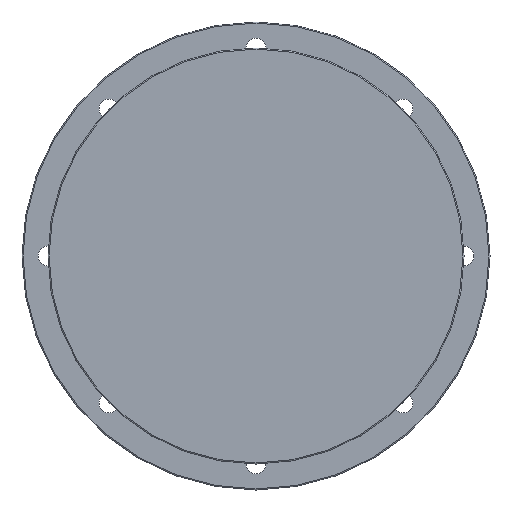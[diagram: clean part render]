
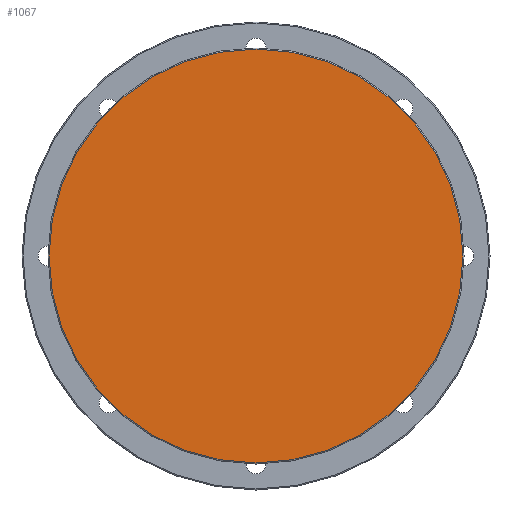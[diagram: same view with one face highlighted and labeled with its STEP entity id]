
A CAD part, left-side view. The second image highlights one B-rep face of the part: STEP entity #1067.
In plain terms, the highlighted planar face has unit normal (-1, 0, 0).
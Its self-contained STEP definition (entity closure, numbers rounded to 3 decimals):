
#1044=CARTESIAN_POINT('',(0.0,199.0,0.0));
#1045=VERTEX_POINT('',#1044);
#1046=CARTESIAN_POINT('',(0.0,0.0,0.0));
#1047=DIRECTION('',(1.0,0.0,0.0));
#1048=DIRECTION('',(0.0,-1.0,0.0));
#1049=AXIS2_PLACEMENT_3D('',#1046,#1047,#1048);
#1050=CIRCLE('',#1049,199.0);
#1051=EDGE_CURVE('',#1045,#1045,#1050,.T.);
#1059=CARTESIAN_POINT('',(0.0,157.819,0.));
#1060=DIRECTION('',(-1.0,0.0,0.0));
#1061=DIRECTION('',(0.0,0.0,1.0));
#1062=AXIS2_PLACEMENT_3D('',#1059,#1060,#1061);
#1063=PLANE('',#1062);
#1064=ORIENTED_EDGE('',*,*,#1051,.F.);
#1065=EDGE_LOOP('',(#1064));
#1066=FACE_OUTER_BOUND('',#1065,.T.);
#1067=ADVANCED_FACE('',(#1066),#1063,.T.);
